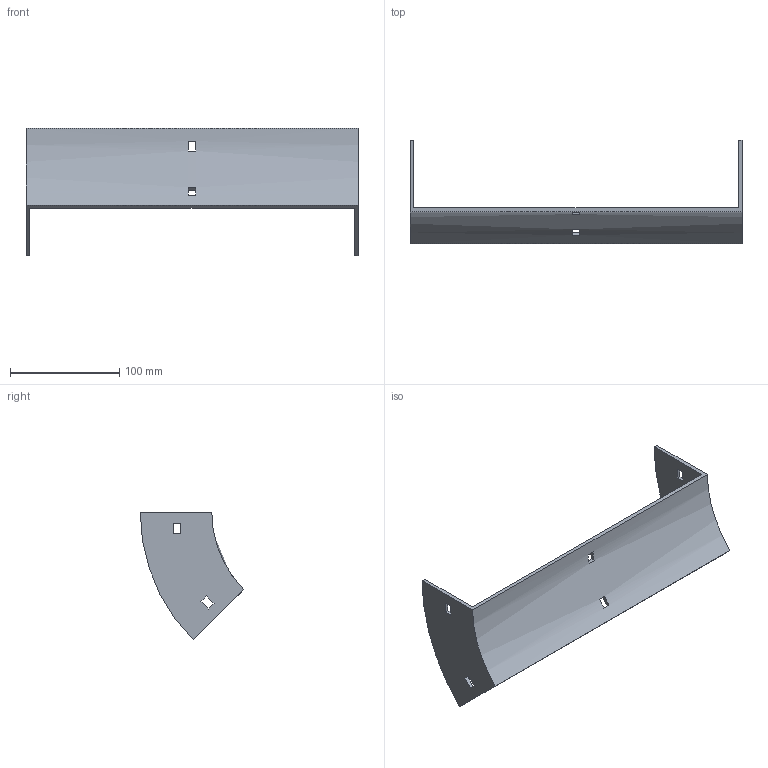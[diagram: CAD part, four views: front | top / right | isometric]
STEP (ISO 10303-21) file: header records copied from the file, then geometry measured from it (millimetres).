
FILE_DESCRIPTION (( 'STEP AP214' ), '1' );
FILE_NAME ('34B1H300.step', '2025-02-21T09:28:59', ( '' ), ( '' ), 'SwSTEP 2.0', 'SolidWorks 2023', '' );
FILE_SCHEMA (( 'AUTOMOTIVE_DESIGN' ));
Length unit declared in the file: millimetre
Products named in the file (1): 34B1H300
Bounding box: 304 x 94.79 x 117.03 mm (x, y, z)
Volume: 129479.7 mm3; surface area: 78580.7 mm2
Topology: 1 solids, 1 shells, 34 faces, 96 edges, 64 vertices
Faces by surface type: plane 30, cylinder 4
Entity records: 1143 total; most frequent: CARTESIAN_POINT 195, ORIENTED_EDGE 192, DIRECTION 182, EDGE_CURVE 96, VECTOR 80, LINE 80, VERTEX_POINT 64, AXIS2_PLACEMENT_3D 51
